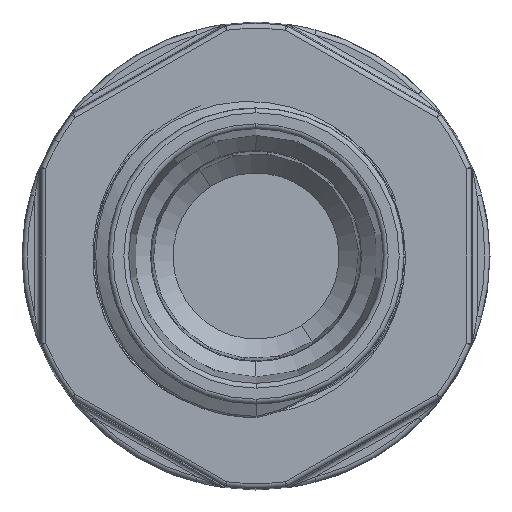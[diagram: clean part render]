
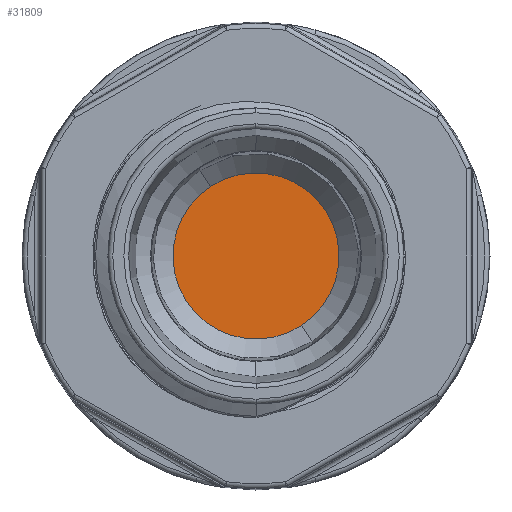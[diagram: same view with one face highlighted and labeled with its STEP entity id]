
A CAD part, front view. The second image highlights one B-rep face of the part: STEP entity #31809.
In plain terms, the highlighted planar face has unit normal (0, -1, 0).
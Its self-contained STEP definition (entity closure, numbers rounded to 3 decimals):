
#2398 = ORIENTED_EDGE ( 'NONE', *, *, #8955, .T. ) ;
#4910 = PLANE ( 'NONE',  #11853 ) ;
#8955 = EDGE_CURVE ( 'NONE', #15136, #10760, #34440, .T. ) ;
#10760 = VERTEX_POINT ( 'NONE', #11943 ) ;
#11853 = AXIS2_PLACEMENT_3D ( 'NONE', #24618, #27361, #13674 ) ;
#11943 = CARTESIAN_POINT ( 'NONE',  ( 0., 11., 5.146 ) ) ;
#12752 = EDGE_CURVE ( 'NONE', #10760, #15136, #32340, .T. ) ;
#12876 = DIRECTION ( 'NONE',  ( 0., -1., 0. ) ) ;
#13129 = FACE_OUTER_BOUND ( 'NONE', #23972, .T. ) ;
#13258 = DIRECTION ( 'NONE',  ( 0., -1., 0. ) ) ;
#13674 = DIRECTION ( 'NONE',  ( 0., 0., 1. ) ) ;
#14358 = ORIENTED_EDGE ( 'NONE', *, *, #12752, .T. ) ;
#15136 = VERTEX_POINT ( 'NONE', #33823 ) ;
#15995 = CARTESIAN_POINT ( 'NONE',  ( 0., 11., 0. ) ) ;
#18359 = AXIS2_PLACEMENT_3D ( 'NONE', #30694, #12876, #32742 ) ;
#23972 = EDGE_LOOP ( 'NONE', ( #2398, #14358 ) ) ;
#24618 = CARTESIAN_POINT ( 'NONE',  ( 0., 11., 0. ) ) ;
#27361 = DIRECTION ( 'NONE',  ( 0., 1., 0. ) ) ;
#30694 = CARTESIAN_POINT ( 'NONE',  ( 0., 11., 0. ) ) ;
#31534 = AXIS2_PLACEMENT_3D ( 'NONE', #15995, #13258, #32415 ) ;
#31809 = ADVANCED_FACE ( 'NONE', ( #13129 ), #4910, .F. ) ;
#32340 = CIRCLE ( 'NONE', #18359, 5.146 ) ;
#32415 = DIRECTION ( 'NONE',  ( 0., 0., -1. ) ) ;
#32742 = DIRECTION ( 'NONE',  ( 0., 0., -1. ) ) ;
#33823 = CARTESIAN_POINT ( 'NONE',  ( 0., 11., -5.146 ) ) ;
#34440 = CIRCLE ( 'NONE', #31534, 5.146 ) ;
